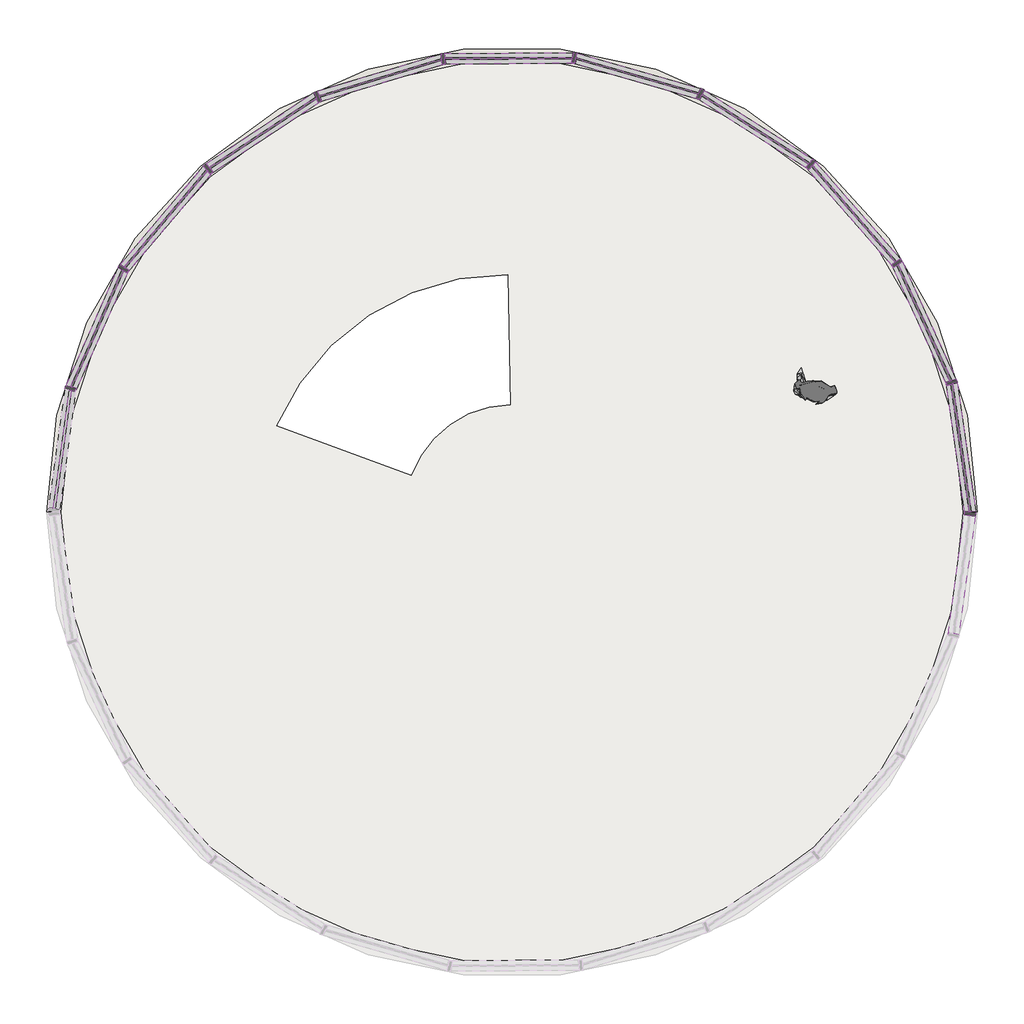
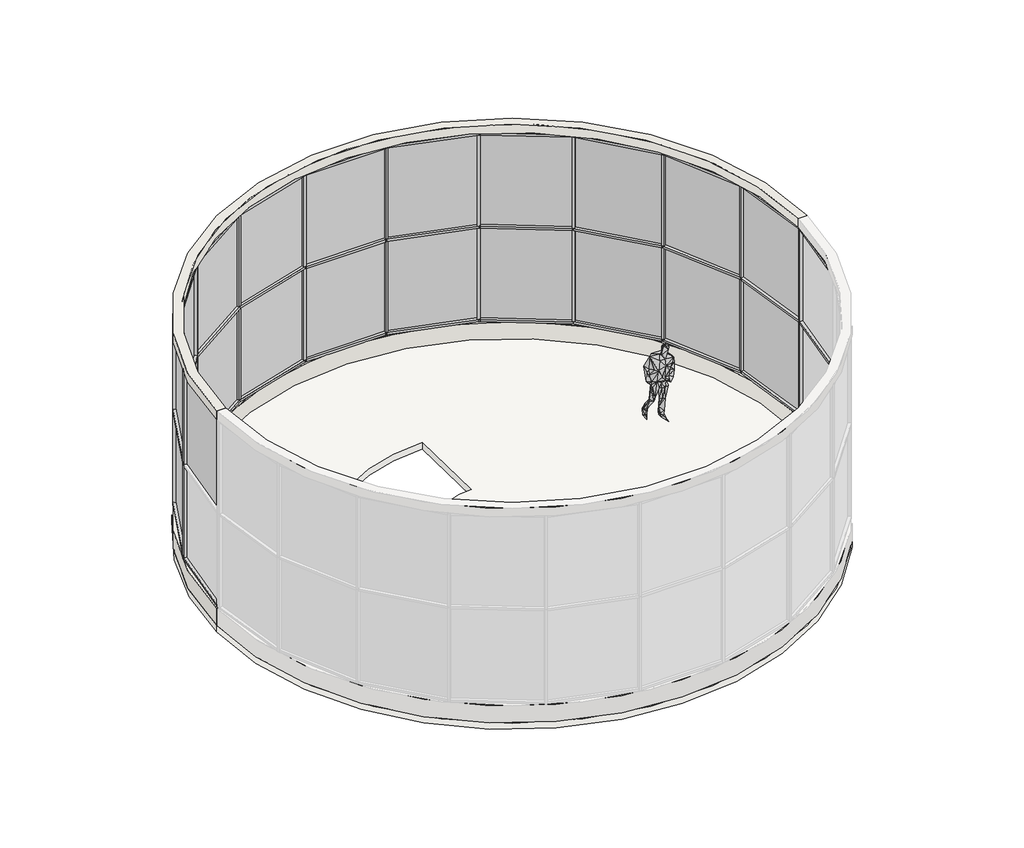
# One storey, part 2 of 2: 55 members, 21 plates, 1 geographic element, 1 slab, 1 wall.
"""IFC4 building model written with IfcOpenShell, lengths in millimetres."""

from ifc_helpers import new_model, si_unit, point, frame, frame_2d, origin, place, context, project, spatial, polyline, circle_curve, trimmed, segment, composite_curve, outline, extrude, transform, mapped, element, save
from components import geographic_element_6033e373, member_50_x_150mm_b0936cf7, member_50_x_150mm_9cef7b28, member_50_x_150mm_9c1dd4a6, member_50_x_150mm_57523fa1, member_50_x_150mm_4a28a883, member_50_x_150mm_b9f85757, member_50_x_150mm_792551fd, member_50_x_150mm_4461103d, member_50_x_150mm_7cecf424, member_50_x_150mm_166c6062, plate_04283251, plate_6d2e8075, plate_2a900eb7

model = new_model("IFC4")

# Units and contexts
model_context = context("Model", 3, world=origin())
ifc_project = project(units=[si_unit("LENGTHUNIT", "METRE", prefix="MILLI")], contexts=[model_context])

# Site, building, storey
site = spatial("IfcSite", under=ifc_project)
building = spatial("IfcBuilding", under=site)
storey = spatial("IfcBuildingStorey", under=building, Name="标高 3", Elevation=12000.0)

# Geographic element
placement = place(None, origin())
geographic_element_shape = geographic_element_6033e373(model_context)
element("IfcGeographicElement", 1, ObjectType="Enscape AssetDefinition - Lars, Walking : Enscape AssetDefinition - Lars, Walking", at=placement, inside=storey, context=model_context, shape_type="MappedRepresentation", body=[
    mapped(geographic_element_shape, transform((3836.1298401, 2197.2359449, 12000.0), x_axis=(1.0, 0.0, 0.0), y_axis=(0.0, 1.0, 0.0), z_axis=(0.0, 0.0, 1.0))),
])

# Members
member_50_x_150mm_shape = member_50_x_150mm_b0936cf7(model_context)
element("IfcMember", 2, ObjectType="矩形竖梃 : 50 x 150mm", at=placement, inside=storey, context=model_context, shape_type="MappedRepresentation", body=[
    mapped(member_50_x_150mm_shape, transform((6029.3412225, 447.6989418, 16800.0), x_axis=(0.0, 0.0, 1.0), y_axis=(0.9907400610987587, -0.13577235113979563, 0.0), z_axis=(0.1357723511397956, 0.9907400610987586, 0.0))),
])
member_50_x_150mm_2_shape = member_50_x_150mm_9cef7b28(model_context)
element("IfcMember", 3, ObjectType="矩形竖梃 : 50 x 150mm", at=placement, inside=storey, context=model_context, shape_type="MappedRepresentation", body=[
    mapped(member_50_x_150mm_2_shape, transform((5774.4970257, 2308.4367326, 12400.0), x_axis=(-0.28300012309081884, 0.9591198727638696, 0.0), y_axis=(0.9591198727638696, 0.28300012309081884, 0.0), z_axis=(0.0, 0.0, -1.0))),
])
element("IfcMember", 4, ObjectType="矩形竖梃 : 50 x 150mm", at=placement, inside=storey, context=model_context, shape_type="MappedRepresentation", body=[
    mapped(member_50_x_150mm_2_shape, transform((5010.9897518, 3971.5532777, 12400.0), x_axis=(-0.5428620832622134, 0.8398218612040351, 0.0), y_axis=(0.8398218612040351, 0.5428620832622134, 0.0), z_axis=(0.0, 0.0, -1.0))),
])
element("IfcMember", 5, ObjectType="矩形竖梃 : 50 x 150mm", at=placement, inside=storey, context=model_context, shape_type="MappedRepresentation", body=[
    mapped(member_50_x_150mm_2_shape, transform((3808.0325667, 5350.6087556, 12400.0), x_axis=(-0.7583395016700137, 0.6518598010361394, 0.0), y_axis=(0.6518598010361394, 0.7583395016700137, 0.0), z_axis=(0.0, 0.0, -1.0))),
])
element("IfcMember", 6, ObjectType="矩形竖梃 : 50 x 150mm", at=placement, inside=storey, context=model_context, shape_type="MappedRepresentation", body=[
    mapped(member_50_x_150mm_2_shape, transform((2263.9795554, 6332.8512401, 12400.0), x_axis=(-0.9118148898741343, 0.41060151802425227, 0.0), y_axis=(0.41060151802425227, 0.9118148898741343, 0.0), z_axis=(0.0, 0.0, -1.0))),
])
element("IfcMember", 7, ObjectType="矩形竖梃 : 50 x 150mm", at=placement, inside=storey, context=model_context, shape_type="MappedRepresentation", body=[
    mapped(member_50_x_150mm_2_shape, transform((505.0728842, 6837.9723363, 12400.0), x_axis=(-0.9907400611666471, 0.1357723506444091, 0.0), y_axis=(0.1357723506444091, 0.9907400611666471, 0.0), z_axis=(0.0, 0.0, -1.0))),
])
element("IfcMember", 8, ObjectType="矩形竖梃 : 50 x 150mm", at=placement, inside=storey, context=model_context, shape_type="MappedRepresentation", body=[
    mapped(member_50_x_150mm_2_shape, transform((-1324.878791, 6824.6732153, 12400.0), x_axis=(-0.988662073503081, -0.15015759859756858, 0.0), y_axis=(-0.15015759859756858, 0.988662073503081, 0.0), z_axis=(0.0, 0.0, -1.0))),
])
element("IfcMember", 9, ObjectType="矩形竖梃 : 50 x 150mm", at=placement, inside=storey, context=model_context, shape_type="MappedRepresentation", body=[
    mapped(member_50_x_150mm_2_shape, transform((-3076.2581564, 6294.0412164, 12400.0), x_axis=(-0.9057508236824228, -0.4238106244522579, 0.0), y_axis=(-0.4238106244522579, 0.9057508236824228, 0.0), z_axis=(0.0, 0.0, -1.0))),
])
element("IfcMember", 10, ObjectType="矩形竖梃 : 50 x 150mm", at=placement, inside=storey, context=model_context, shape_type="MappedRepresentation", body=[
    mapped(member_50_x_150mm_2_shape, transform((-4605.8719906, 5289.4609467, 12400.0), x_axis=(-0.7487851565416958, -0.6628127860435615, 0.0), y_axis=(-0.6628127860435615, 0.7487851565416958, 0.0), z_axis=(0.0, 0.0, -1.0))),
])
element("IfcMember", 11, ObjectType="矩形竖梃 : 50 x 150mm", at=placement, inside=storey, context=model_context, shape_type="MappedRepresentation", body=[
    mapped(member_50_x_150mm_2_shape, transform((-5788.6586781, 3893.0671441, 12400.0), x_axis=(-0.5305986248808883, -0.847623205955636, 0.0), y_axis=(-0.847623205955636, 0.5305986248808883, 0.0), z_axis=(0.0, 0.0, -1.0))),
])
element("IfcMember", 12, ObjectType="矩形竖梃 : 50 x 150mm", at=placement, inside=storey, context=model_context, shape_type="MappedRepresentation", body=[
    mapped(member_50_x_150mm_2_shape, transform((-6527.9132789, 2219.0293204, 12400.0), x_axis=(-0.2690302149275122, -0.963131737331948, 0.0), y_axis=(-0.963131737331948, 0.2690302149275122, 0.0), z_axis=(0.0, 0.0, -1.0))),
])
member_50_x_150mm_3_shape = member_50_x_150mm_9c1dd4a6(model_context)
element("IfcMember", 13, ObjectType="矩形竖梃 : 50 x 150mm", at=placement, inside=storey, context=model_context, shape_type="MappedRepresentation", body=[
    mapped(member_50_x_150mm_3_shape, transform((5021.420179, 3948.8331064, 14600.0), x_axis=(0.0, 0.0, 1.0), y_axis=(0.9088068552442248, 0.41721708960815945, 0.0), z_axis=(-0.41721708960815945, 0.9088068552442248, 0.0))),
])
element("IfcMember", 14, ObjectType="矩形竖梃 : 50 x 150mm", at=placement, inside=storey, context=model_context, shape_type="MappedRepresentation", body=[
    mapped(member_50_x_150mm_3_shape, transform((3824.466408, 5331.7691998, 14600.0), x_axis=(0.0, 0.0, 1.0), y_axis=(0.7535822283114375, 0.6573536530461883, 0.0), z_axis=(-0.6573536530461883, 0.7535822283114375, 0.0))),
])
element("IfcMember", 15, ObjectType="矩形竖梃 : 50 x 150mm", at=placement, inside=storey, context=model_context, shape_type="MappedRepresentation", body=[
    mapped(member_50_x_150mm_3_shape, transform((2285.0731758, 6319.4326269, 14600.0), x_axis=(0.0, 0.0, 1.0), y_axis=(0.5367445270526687, 0.8437448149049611, 0.0), z_axis=(-0.8437448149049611, 0.5367445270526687, 0.0))),
])
element("IfcMember", 16, ObjectType="矩形竖梃 : 50 x 150mm", at=placement, inside=storey, context=model_context, shape_type="MappedRepresentation", body=[
    mapped(member_50_x_150mm_3_shape, transform((529.1016638, 6831.0717749, 14600.0), x_axis=(0.0, 0.0, 1.0), y_axis=(0.27602245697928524, 0.9611511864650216, 0.0), z_axis=(-0.9611511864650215, 0.2760224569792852, 0.0))),
])
element("IfcMember", 17, ObjectType="矩形竖梃 : 50 x 150mm", at=placement, inside=storey, context=model_context, shape_type="MappedRepresentation", body=[
    mapped(member_50_x_150mm_3_shape, transform((-1299.8794511, 6824.8548973, 14600.0), x_axis=(0.0, 0.0, 1.0), y_axis=(-0.007267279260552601, 0.9999735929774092, 0.0), z_axis=(-0.9999735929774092, -0.007267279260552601, 0.0))),
])
element("IfcMember", 18, ObjectType="矩形竖梃 : 50 x 150mm", at=placement, inside=storey, context=model_context, shape_type="MappedRepresentation", body=[
    mapped(member_50_x_150mm_3_shape, transform((-3052.3322088, 6301.2902875, 14600.0), x_axis=(0.0, 0.0, 1.0), y_axis=(-0.2899628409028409, 0.9570379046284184, 0.0), z_axis=(-0.9570379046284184, -0.2899628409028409, 0.0))),
])
element("IfcMember", 19, ObjectType="矩形竖梃 : 50 x 150mm", at=placement, inside=storey, context=model_context, shape_type="MappedRepresentation", body=[
    mapped(member_50_x_150mm_3_shape, transform((-4584.9756268, 5303.1847209, 14600.0), x_axis=(0.0, 0.0, 1.0), y_axis=(-0.5489509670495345, 0.8358545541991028, 0.0), z_axis=(-0.8358545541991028, -0.5489509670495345, 0.0))),
])
element("IfcMember", 20, ObjectType="矩形竖梃 : 50 x 150mm", at=placement, inside=storey, context=model_context, shape_type="MappedRepresentation", body=[
    mapped(member_50_x_150mm_3_shape, transform((-5772.50039, 3912.1435622, 14600.0), x_axis=(0.0, 0.0, 1.0), y_axis=(-0.7630567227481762, 0.6463315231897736, 0.0), z_axis=(-0.6463315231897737, -0.7630567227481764, 0.0))),
])
element("IfcMember", 21, ObjectType="矩形竖梃 : 50 x 150mm", at=placement, inside=storey, context=model_context, shape_type="MappedRepresentation", body=[
    mapped(member_50_x_150mm_3_shape, transform((-6517.8141723, 2241.8986896, 14600.0), x_axis=(0.0, 0.0, 1.0), y_axis=(-0.9147747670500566, 0.4039642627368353, 0.0), z_axis=(-0.4039642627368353, -0.9147747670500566, 0.0))),
])
member_50_x_150mm_4_shape = member_50_x_150mm_57523fa1(model_context)
element("IfcMember", 22, ObjectType="矩形竖梃 : 50 x 150mm", at=placement, inside=storey, context=model_context, shape_type="MappedRepresentation", body=[
    mapped(member_50_x_150mm_4_shape, transform((6029.3412225, 447.6989418, 14600.0), x_axis=(0.0, 0.0, 1.0), y_axis=(0.9907400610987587, -0.13577235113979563, 0.0), z_axis=(0.1357723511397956, 0.9907400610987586, 0.0))),
])
member_50_x_150mm_5_shape = member_50_x_150mm_4a28a883(model_context)
element("IfcMember", 23, ObjectType="矩形竖梃 : 50 x 150mm", at=placement, inside=storey, context=model_context, shape_type="MappedRepresentation", body=[
    mapped(member_50_x_150mm_5_shape, transform((5764.0665985, 2331.156904, 12400.0), x_axis=(0.0, 0.0, -1.0), y_axis=(0.9088068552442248, 0.4172170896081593, 0.0), z_axis=(0.4172170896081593, -0.9088068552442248, 0.0))),
])
element("IfcMember", 24, ObjectType="矩形竖梃 : 50 x 150mm", at=placement, inside=storey, context=model_context, shape_type="MappedRepresentation", body=[
    mapped(member_50_x_150mm_5_shape, transform((4994.5559104, 3990.3928335, 12400.0), x_axis=(0.0, 0.0, -1.0), y_axis=(0.7535822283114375, 0.6573536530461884, 0.0), z_axis=(0.6573536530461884, -0.7535822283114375, 0.0))),
])
element("IfcMember", 25, ObjectType="矩形竖梃 : 50 x 150mm", at=placement, inside=storey, context=model_context, shape_type="MappedRepresentation", body=[
    mapped(member_50_x_150mm_5_shape, transform((3786.9389463, 5364.0273687, 12400.0), x_axis=(0.0, 0.0, -1.0), y_axis=(0.536744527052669, 0.843744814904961, 0.0), z_axis=(0.8437448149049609, -0.5367445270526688, 0.0))),
])
element("IfcMember", 26, ObjectType="矩形竖梃 : 50 x 150mm", at=placement, inside=storey, context=model_context, shape_type="MappedRepresentation", body=[
    mapped(member_50_x_150mm_5_shape, transform((2239.9507757, 6339.7518015, 12400.0), x_axis=(0.0, 0.0, -1.0), y_axis=(0.2760224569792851, 0.9611511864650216, 0.0), z_axis=(0.9611511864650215, -0.27602245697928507, 0.0))),
])
element("IfcMember", 27, ObjectType="矩形竖梃 : 50 x 150mm", at=placement, inside=storey, context=model_context, shape_type="MappedRepresentation", body=[
    mapped(member_50_x_150mm_5_shape, transform((480.0735444, 6837.7906544, 12400.0), x_axis=(0.0, 0.0, -1.0), y_axis=(-0.007267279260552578, 0.9999735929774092, 0.0), z_axis=(0.9999735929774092, 0.007267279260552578, 0.0))),
])
element("IfcMember", 28, ObjectType="矩形竖梃 : 50 x 150mm", at=placement, inside=storey, context=model_context, shape_type="MappedRepresentation", body=[
    mapped(member_50_x_150mm_5_shape, transform((-1348.8047386, 6817.4241443, 12400.0), x_axis=(0.0, 0.0, -1.0), y_axis=(-0.2899628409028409, 0.9570379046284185, 0.0), z_axis=(0.9570379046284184, 0.28996284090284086, 0.0))),
])
element("IfcMember", 29, ObjectType="矩形竖梃 : 50 x 150mm", at=placement, inside=storey, context=model_context, shape_type="MappedRepresentation", body=[
    mapped(member_50_x_150mm_5_shape, transform((-3097.1545203, 6280.3174423, 12400.0), x_axis=(0.0, 0.0, -1.0), y_axis=(-0.5489509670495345, 0.8358545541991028, 0.0), z_axis=(0.8358545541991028, 0.5489509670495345, 0.0))),
])
element("IfcMember", 30, ObjectType="矩形竖梃 : 50 x 150mm", at=placement, inside=storey, context=model_context, shape_type="MappedRepresentation", body=[
    mapped(member_50_x_150mm_5_shape, transform((-4622.0302787, 5270.3845287, 12400.0), x_axis=(0.0, 0.0, -1.0), y_axis=(-0.7630567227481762, 0.6463315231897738, 0.0), z_axis=(0.6463315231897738, 0.7630567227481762, 0.0))),
])
element("IfcMember", 31, ObjectType="矩形竖梃 : 50 x 150mm", at=placement, inside=storey, context=model_context, shape_type="MappedRepresentation", body=[
    mapped(member_50_x_150mm_5_shape, transform((-5798.7577846, 3870.1977749, 12400.0), x_axis=(0.0, 0.0, -1.0), y_axis=(-0.9147747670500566, 0.40396426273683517, 0.0), z_axis=(0.40396426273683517, 0.9147747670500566, 0.0))),
])
member_50_x_150mm_6_shape = member_50_x_150mm_b9f85757(model_context)
element("IfcMember", 32, ObjectType="矩形竖梃 : 50 x 150mm", at=placement, inside=storey, context=model_context, shape_type="MappedRepresentation", body=[
    mapped(member_50_x_150mm_6_shape, transform((-6531.3075877, 2194.2608189, 12400.0), x_axis=(0.0, 0.0, -1.0), y_axis=(-0.9907400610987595, 0.13577235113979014, 0.0), z_axis=(0.13577235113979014, 0.9907400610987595, 0.0))),
])
element("IfcMember", 33, ObjectType="矩形竖梃 : 50 x 150mm", at=placement, inside=storey, context=model_context, shape_type="MappedRepresentation", body=[
    mapped(member_50_x_150mm_5_shape, transform((5021.420179, 3948.8331064, 16800.0), x_axis=(0.0, 0.0, 1.0), y_axis=(0.9088068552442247, 0.4172170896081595, 0.0), z_axis=(-0.4172170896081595, 0.9088068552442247, 0.0))),
])
element("IfcMember", 34, ObjectType="矩形竖梃 : 50 x 150mm", at=placement, inside=storey, context=model_context, shape_type="MappedRepresentation", body=[
    mapped(member_50_x_150mm_5_shape, transform((3824.466408, 5331.7691998, 16800.0), x_axis=(0.0, 0.0, 1.0), y_axis=(0.7535822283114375, 0.6573536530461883, 0.0), z_axis=(-0.6573536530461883, 0.7535822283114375, 0.0))),
])
element("IfcMember", 35, ObjectType="矩形竖梃 : 50 x 150mm", at=placement, inside=storey, context=model_context, shape_type="MappedRepresentation", body=[
    mapped(member_50_x_150mm_5_shape, transform((2285.0731758, 6319.4326269, 16800.0), x_axis=(0.0, 0.0, 1.0), y_axis=(0.5367445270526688, 0.843744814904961, 0.0), z_axis=(-0.843744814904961, 0.5367445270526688, 0.0))),
])
element("IfcMember", 36, ObjectType="矩形竖梃 : 50 x 150mm", at=placement, inside=storey, context=model_context, shape_type="MappedRepresentation", body=[
    mapped(member_50_x_150mm_5_shape, transform((529.1016638, 6831.0717749, 16800.0), x_axis=(0.0, 0.0, 1.0), y_axis=(0.2760224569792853, 0.9611511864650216, 0.0), z_axis=(-0.9611511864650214, 0.27602245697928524, 0.0))),
])
element("IfcMember", 37, ObjectType="矩形竖梃 : 50 x 150mm", at=placement, inside=storey, context=model_context, shape_type="MappedRepresentation", body=[
    mapped(member_50_x_150mm_5_shape, transform((-1299.8794511, 6824.8548973, 16800.0), x_axis=(0.0, 0.0, 1.0), y_axis=(-0.007267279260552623, 0.9999735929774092, 0.0), z_axis=(-0.9999735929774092, -0.007267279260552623, 0.0))),
])
element("IfcMember", 38, ObjectType="矩形竖梃 : 50 x 150mm", at=placement, inside=storey, context=model_context, shape_type="MappedRepresentation", body=[
    mapped(member_50_x_150mm_5_shape, transform((-3052.3322088, 6301.2902875, 16800.0), x_axis=(0.0, 0.0, 1.0), y_axis=(-0.28996284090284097, 0.9570379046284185, 0.0), z_axis=(-0.9570379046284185, -0.28996284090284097, 0.0))),
])
element("IfcMember", 39, ObjectType="矩形竖梃 : 50 x 150mm", at=placement, inside=storey, context=model_context, shape_type="MappedRepresentation", body=[
    mapped(member_50_x_150mm_5_shape, transform((-4584.9756268, 5303.1847209, 16800.0), x_axis=(0.0, 0.0, 1.0), y_axis=(-0.5489509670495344, 0.8358545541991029, 0.0), z_axis=(-0.8358545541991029, -0.5489509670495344, 0.0))),
])
element("IfcMember", 40, ObjectType="矩形竖梃 : 50 x 150mm", at=placement, inside=storey, context=model_context, shape_type="MappedRepresentation", body=[
    mapped(member_50_x_150mm_5_shape, transform((-5772.50039, 3912.1435622, 16800.0), x_axis=(0.0, 0.0, 1.0), y_axis=(-0.7630567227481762, 0.6463315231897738, 0.0), z_axis=(-0.6463315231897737, -0.763056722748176, 0.0))),
])
element("IfcMember", 41, ObjectType="矩形竖梃 : 50 x 150mm", at=placement, inside=storey, context=model_context, shape_type="MappedRepresentation", body=[
    mapped(member_50_x_150mm_5_shape, transform((-6517.8141723, 2241.8986896, 16800.0), x_axis=(0.0, 0.0, 1.0), y_axis=(-0.9147747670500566, 0.4039642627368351, 0.0), z_axis=(-0.4039642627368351, -0.9147747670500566, 0.0))),
])
element("IfcMember", 42, ObjectType="矩形竖梃 : 50 x 150mm", at=placement, inside=storey, context=model_context, shape_type="MappedRepresentation", body=[
    mapped(member_50_x_150mm_2_shape, transform((5774.4970257, 2308.4367326, 14600.0), x_axis=(-0.28300012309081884, 0.9591198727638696, 0.0), y_axis=(0.9591198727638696, 0.28300012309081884, 0.0), z_axis=(0.0, 0.0, -1.0))),
])
element("IfcMember", 43, ObjectType="矩形竖梃 : 50 x 150mm", at=placement, inside=storey, context=model_context, shape_type="MappedRepresentation", body=[
    mapped(member_50_x_150mm_2_shape, transform((5010.9897518, 3971.5532777, 14600.0), x_axis=(-0.5428620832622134, 0.8398218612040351, 0.0), y_axis=(0.8398218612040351, 0.5428620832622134, 0.0), z_axis=(0.0, 0.0, -1.0))),
])
element("IfcMember", 44, ObjectType="矩形竖梃 : 50 x 150mm", at=placement, inside=storey, context=model_context, shape_type="MappedRepresentation", body=[
    mapped(member_50_x_150mm_2_shape, transform((3808.0325667, 5350.6087556, 14600.0), x_axis=(-0.7583395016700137, 0.6518598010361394, 0.0), y_axis=(0.6518598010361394, 0.7583395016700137, 0.0), z_axis=(0.0, 0.0, -1.0))),
])
element("IfcMember", 45, ObjectType="矩形竖梃 : 50 x 150mm", at=placement, inside=storey, context=model_context, shape_type="MappedRepresentation", body=[
    mapped(member_50_x_150mm_2_shape, transform((2263.9795554, 6332.8512401, 14600.0), x_axis=(-0.9118148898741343, 0.41060151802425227, 0.0), y_axis=(0.41060151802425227, 0.9118148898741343, 0.0), z_axis=(0.0, 0.0, -1.0))),
])
element("IfcMember", 46, ObjectType="矩形竖梃 : 50 x 150mm", at=placement, inside=storey, context=model_context, shape_type="MappedRepresentation", body=[
    mapped(member_50_x_150mm_2_shape, transform((505.0728842, 6837.9723363, 14600.0), x_axis=(-0.9907400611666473, 0.1357723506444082, 0.0), y_axis=(0.1357723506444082, 0.9907400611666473, 0.0), z_axis=(0.0, 0.0, -1.0))),
])
element("IfcMember", 47, ObjectType="矩形竖梃 : 50 x 150mm", at=placement, inside=storey, context=model_context, shape_type="MappedRepresentation", body=[
    mapped(member_50_x_150mm_2_shape, transform((-1324.878791, 6824.6732153, 14600.0), x_axis=(-0.988662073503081, -0.15015759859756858, 0.0), y_axis=(-0.15015759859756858, 0.988662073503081, 0.0), z_axis=(0.0, 0.0, -1.0))),
])
element("IfcMember", 48, ObjectType="矩形竖梃 : 50 x 150mm", at=placement, inside=storey, context=model_context, shape_type="MappedRepresentation", body=[
    mapped(member_50_x_150mm_2_shape, transform((-3076.2581564, 6294.0412164, 14600.0), x_axis=(-0.9057508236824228, -0.4238106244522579, 0.0), y_axis=(-0.4238106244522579, 0.9057508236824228, 0.0), z_axis=(0.0, 0.0, -1.0))),
])
element("IfcMember", 49, ObjectType="矩形竖梃 : 50 x 150mm", at=placement, inside=storey, context=model_context, shape_type="MappedRepresentation", body=[
    mapped(member_50_x_150mm_2_shape, transform((-4605.8719906, 5289.4609467, 14600.0), x_axis=(-0.7487851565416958, -0.6628127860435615, 0.0), y_axis=(-0.6628127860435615, 0.7487851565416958, 0.0), z_axis=(0.0, 0.0, -1.0))),
])
element("IfcMember", 50, ObjectType="矩形竖梃 : 50 x 150mm", at=placement, inside=storey, context=model_context, shape_type="MappedRepresentation", body=[
    mapped(member_50_x_150mm_2_shape, transform((-5788.6586781, 3893.0671441, 14600.0), x_axis=(-0.5305986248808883, -0.847623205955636, 0.0), y_axis=(-0.847623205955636, 0.5305986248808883, 0.0), z_axis=(0.0, 0.0, -1.0))),
])
element("IfcMember", 51, ObjectType="矩形竖梃 : 50 x 150mm", at=placement, inside=storey, context=model_context, shape_type="MappedRepresentation", body=[
    mapped(member_50_x_150mm_2_shape, transform((-6527.9132789, 2219.0293204, 14600.0), x_axis=(-0.2690302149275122, -0.963131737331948, 0.0), y_axis=(-0.963131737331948, 0.2690302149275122, 0.0), z_axis=(0.0, 0.0, -1.0))),
])
member_50_x_150mm_7_shape = member_50_x_150mm_792551fd(model_context)
element("IfcMember", 52, ObjectType="矩形竖梃 : 50 x 150mm", at=placement, inside=storey, context=model_context, shape_type="MappedRepresentation", body=[
    mapped(member_50_x_150mm_7_shape, transform((6036.1298401, 497.2359449, 12400.0), x_axis=(0.1357723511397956, 0.9907400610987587, 0.0), y_axis=(0.9907400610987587, -0.1357723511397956, 0.0), z_axis=(0.0, 0.0, -1.0))),
])
element("IfcMember", 53, ObjectType="矩形竖梃 : 50 x 150mm", at=placement, inside=storey, context=model_context, shape_type="MappedRepresentation", body=[
    mapped(member_50_x_150mm_7_shape, transform((6036.1298401, 497.2359449, 14600.0), x_axis=(0.1357723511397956, 0.9907400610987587, 0.0), y_axis=(0.9907400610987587, -0.1357723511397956, 0.0), z_axis=(0.0, 0.0, -1.0))),
])
member_50_x_150mm_8_shape = member_50_x_150mm_4461103d(model_context)
element("IfcMember", 54, ObjectType="矩形竖梃 : 50 x 150mm", at=placement, inside=storey, context=model_context, shape_type="MappedRepresentation", body=[
    mapped(member_50_x_150mm_8_shape, transform((6036.1298401, 497.2359449, 12400.0), x_axis=(0.0, 0.0, -1.0), y_axis=(0.989727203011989, 0.14296875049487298, 0.0), z_axis=(0.14296875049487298, -0.989727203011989, 0.0))),
])
member_50_x_150mm_9_shape = member_50_x_150mm_7cecf424(model_context)
element("IfcMember", 55, ObjectType="矩形竖梃 : 50 x 150mm", at=placement, inside=storey, context=model_context, shape_type="MappedRepresentation", body=[
    mapped(member_50_x_150mm_9_shape, transform((5778.0712445, 2283.6935526, 14600.0), x_axis=(0.0, 0.0, 1.0), y_axis=(0.989727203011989, 0.14296875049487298, 0.0), z_axis=(-0.14296875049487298, 0.989727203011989, 0.0))),
])
member_50_x_150mm_10_shape = member_50_x_150mm_166c6062(model_context)
element("IfcMember", 56, ObjectType="矩形竖梃 : 50 x 150mm", at=placement, inside=storey, context=model_context, shape_type="MappedRepresentation", body=[
    mapped(member_50_x_150mm_10_shape, transform((5778.0712445, 2283.6935526, 16800.0), x_axis=(0.0, 0.0, 1.0), y_axis=(0.989727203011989, 0.14296875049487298, 0.0), z_axis=(-0.14296875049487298, 0.989727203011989, 0.0))),
])

# Plates
plate_shape = plate_04283251(model_context)
element("IfcPlate", 57, ObjectType="系统嵌板 : 玻璃", at=placement, inside=storey, context=model_context, shape_type="MappedRepresentation", body=[
    mapped(plate_shape, transform((5392.7433887, 3139.9950052, 12450.0), x_axis=(-0.4172170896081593, 0.9088068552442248, 0.0), y_axis=(-0.9088068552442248, -0.4172170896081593, 0.0), z_axis=(0.0, 0.0, 1.0))),
])
element("IfcPlate", 58, ObjectType="系统嵌板 : 玻璃", at=placement, inside=storey, context=model_context, shape_type="MappedRepresentation", body=[
    mapped(plate_shape, transform((4409.5111592, 4661.0810166, 12450.0), x_axis=(-0.6573536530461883, 0.7535822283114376, 0.0), y_axis=(-0.7535822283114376, -0.6573536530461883, 0.0), z_axis=(0.0, 0.0, 1.0))),
])
element("IfcPlate", 59, ObjectType="系统嵌板 : 玻璃", at=placement, inside=storey, context=model_context, shape_type="MappedRepresentation", body=[
    mapped(plate_shape, transform((3036.006061, 5841.7299978, 12450.0), x_axis=(-0.843744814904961, 0.5367445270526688, 0.0), y_axis=(-0.5367445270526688, -0.843744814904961, 0.0), z_axis=(0.0, 0.0, 1.0))),
])
element("IfcPlate", 60, ObjectType="系统嵌板 : 玻璃", at=placement, inside=storey, context=model_context, shape_type="MappedRepresentation", body=[
    mapped(plate_shape, transform((1384.5262198, 6585.4117882, 12450.0), x_axis=(-0.9611511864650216, 0.27602245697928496, 0.0), y_axis=(-0.27602245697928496, -0.9611511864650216, 0.0), z_axis=(0.0, 0.0, 1.0))),
])
element("IfcPlate", 61, ObjectType="系统嵌板 : 玻璃", at=placement, inside=storey, context=model_context, shape_type="MappedRepresentation", body=[
    mapped(plate_shape, transform((-409.9029534, 6831.3227758, 12450.0), x_axis=(-0.9999735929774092, -0.007267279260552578, 0.0), y_axis=(0.007267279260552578, -0.9999735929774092, 0.0), z_axis=(0.0, 0.0, 1.0))),
])
element("IfcPlate", 62, ObjectType="系统嵌板 : 玻璃", at=placement, inside=storey, context=model_context, shape_type="MappedRepresentation", body=[
    mapped(plate_shape, transform((-2200.5684737, 6559.3572159, 12450.0), x_axis=(-0.9570379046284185, -0.2899628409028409, 0.0), y_axis=(0.2899628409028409, -0.9570379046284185, 0.0), z_axis=(0.0, 0.0, 1.0))),
])
element("IfcPlate", 63, ObjectType="系统嵌板 : 玻璃", at=placement, inside=storey, context=model_context, shape_type="MappedRepresentation", body=[
    mapped(plate_shape, transform((-3841.0650735, 5791.7510816, 12450.0), x_axis=(-0.8358545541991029, -0.5489509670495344, 0.0), y_axis=(0.5489509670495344, -0.8358545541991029, 0.0), z_axis=(0.0, 0.0, 1.0))),
])
element("IfcPlate", 64, ObjectType="系统嵌板 : 玻璃", at=placement, inside=storey, context=model_context, shape_type="MappedRepresentation", body=[
    mapped(plate_shape, transform((-5197.2653343, 4591.2640454, 12450.0), x_axis=(-0.6463315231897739, -0.7630567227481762, 0.0), y_axis=(0.7630567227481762, -0.6463315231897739, 0.0), z_axis=(0.0, 0.0, 1.0))),
])
element("IfcPlate", 65, ObjectType="系统嵌板 : 玻璃", at=placement, inside=storey, context=model_context, shape_type="MappedRepresentation", body=[
    mapped(plate_shape, transform((-6158.2859785, 3056.0482323, 12450.0), x_axis=(-0.4039642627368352, -0.9147747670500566, 0.0), y_axis=(0.9147747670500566, -0.4039642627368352, 0.0), z_axis=(0.0, 0.0, 1.0))),
])
element("IfcPlate", 66, ObjectType="系统嵌板 : 玻璃", at=placement, inside=storey, context=model_context, shape_type="MappedRepresentation", body=[
    mapped(plate_shape, transform((5392.7433887, 3139.9950052, 14625.0), x_axis=(-0.4172170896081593, 0.9088068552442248, 0.0), y_axis=(-0.9088068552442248, -0.4172170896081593, 0.0), z_axis=(0.0, 0.0, 1.0))),
])
element("IfcPlate", 67, ObjectType="系统嵌板 : 玻璃", at=placement, inside=storey, context=model_context, shape_type="MappedRepresentation", body=[
    mapped(plate_shape, transform((4409.5111592, 4661.0810166, 14625.0), x_axis=(-0.6573536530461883, 0.7535822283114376, 0.0), y_axis=(-0.7535822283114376, -0.6573536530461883, 0.0), z_axis=(0.0, 0.0, 1.0))),
])
element("IfcPlate", 68, ObjectType="系统嵌板 : 玻璃", at=placement, inside=storey, context=model_context, shape_type="MappedRepresentation", body=[
    mapped(plate_shape, transform((3036.006061, 5841.7299978, 14625.0), x_axis=(-0.843744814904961, 0.5367445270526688, 0.0), y_axis=(-0.5367445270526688, -0.843744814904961, 0.0), z_axis=(0.0, 0.0, 1.0))),
])
element("IfcPlate", 69, ObjectType="系统嵌板 : 玻璃", at=placement, inside=storey, context=model_context, shape_type="MappedRepresentation", body=[
    mapped(plate_shape, transform((1384.5262198, 6585.4117882, 14625.0), x_axis=(-0.9611511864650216, 0.27602245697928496, 0.0), y_axis=(-0.27602245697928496, -0.9611511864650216, 0.0), z_axis=(0.0, 0.0, 1.0))),
])
element("IfcPlate", 70, ObjectType="系统嵌板 : 玻璃", at=placement, inside=storey, context=model_context, shape_type="MappedRepresentation", body=[
    mapped(plate_shape, transform((-409.9029534, 6831.3227758, 14625.0), x_axis=(-0.9999735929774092, -0.007267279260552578, 0.0), y_axis=(0.007267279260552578, -0.9999735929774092, 0.0), z_axis=(0.0, 0.0, 1.0))),
])
element("IfcPlate", 71, ObjectType="系统嵌板 : 玻璃", at=placement, inside=storey, context=model_context, shape_type="MappedRepresentation", body=[
    mapped(plate_shape, transform((-2200.5684737, 6559.3572159, 14625.0), x_axis=(-0.9570379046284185, -0.2899628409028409, 0.0), y_axis=(0.2899628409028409, -0.9570379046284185, 0.0), z_axis=(0.0, 0.0, 1.0))),
])
element("IfcPlate", 72, ObjectType="系统嵌板 : 玻璃", at=placement, inside=storey, context=model_context, shape_type="MappedRepresentation", body=[
    mapped(plate_shape, transform((-3841.0650735, 5791.7510816, 14625.0), x_axis=(-0.8358545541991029, -0.5489509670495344, 0.0), y_axis=(0.5489509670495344, -0.8358545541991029, 0.0), z_axis=(0.0, 0.0, 1.0))),
])
element("IfcPlate", 73, ObjectType="系统嵌板 : 玻璃", at=placement, inside=storey, context=model_context, shape_type="MappedRepresentation", body=[
    mapped(plate_shape, transform((-5197.2653343, 4591.2640454, 14625.0), x_axis=(-0.6463315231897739, -0.7630567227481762, 0.0), y_axis=(0.7630567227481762, -0.6463315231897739, 0.0), z_axis=(0.0, 0.0, 1.0))),
])
element("IfcPlate", 74, ObjectType="系统嵌板 : 玻璃", at=placement, inside=storey, context=model_context, shape_type="MappedRepresentation", body=[
    mapped(plate_shape, transform((-6158.2859785, 3056.0482323, 14625.0), x_axis=(-0.4039642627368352, -0.9147747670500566, 0.0), y_axis=(0.9147747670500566, -0.4039642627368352, 0.0), z_axis=(0.0, 0.0, 1.0))),
])
plate_2_shape = plate_6d2e8075(model_context)
element("IfcPlate", 75, ObjectType="系统嵌板 : 玻璃", at=placement, inside=storey, context=model_context, shape_type="MappedRepresentation", body=[
    mapped(plate_2_shape, transform((-6644.194565, 1370.5168834, 14625.0), x_axis=(-0.13577235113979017, -0.9907400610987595, 0.0), y_axis=(0.9907400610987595, -0.13577235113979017, 0.0), z_axis=(0.0, 0.0, 1.0))),
])
plate_3_shape = plate_2a900eb7(model_context)
element("IfcPlate", 76, ObjectType="系统嵌板 : 玻璃", at=placement, inside=storey, context=model_context, shape_type="MappedRepresentation", body=[
    mapped(plate_3_shape, transform((5907.1005423, 1390.4647487, 12450.0), x_axis=(-0.1429687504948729, 0.989727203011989, 0.0), y_axis=(-0.989727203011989, -0.1429687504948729, 0.0), z_axis=(0.0, 0.0, 1.0))),
])
element("IfcPlate", 77, ObjectType="系统嵌板 : 玻璃", at=placement, inside=storey, context=model_context, shape_type="MappedRepresentation", body=[
    mapped(plate_3_shape, transform((5907.1005423, 1390.4647487, 14625.0), x_axis=(-0.1429687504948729, 0.989727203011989, 0.0), y_axis=(-0.989727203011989, -0.1429687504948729, 0.0), z_axis=(0.0, 0.0, 1.0))),
])

# Slab
element("IfcSlab", 78, ObjectType="常规 - 150mm", at=placement, inside=storey, context=model_context, shape_type="SweptSolid", body=[
    extrude(outline(composite_curve([segment(trimmed(circle_curve(frame_2d((-363.8701599, 497.2359449)), 6500.0), [point((-6863.8701599, 497.2359449))], [point((6136.1298401, 497.2359449))], False, "CARTESIAN"), True, "CONTINUOUS"), segment(trimmed(circle_curve(frame_2d((-363.8701599, 497.2359449)), 6500.0), [point((6136.1298401, 497.2359449))], [point((-6863.8701599, 497.2359449))], False, "CARTESIAN"), True, "CONTINUOUS")], self_intersect=False), holes=[composite_curve([segment(polyline([(-3650.0131877, 1701.9201364), (-1772.2171718, 1013.5291698)]), True, "CONTINUOUS"), segment(trimmed(circle_curve(frame_2d((-363.8701599, 497.2359449)), 1500.0), [point((-1772.2171718, 1013.5291698))], [point((-391.6543886, 1996.9786017))], False, "CARTESIAN"), True, "CONTINUOUS"), segment(polyline([(-391.6543886, 1996.9786017), (-425.2782166, 3811.9323259)]), True, "CONTINUOUS"), segment(trimmed(circle_curve(frame_2d((-457.9626449, 342.6941128)), 3469.3921731), [point((-425.2782166, 3811.9323259))], [point((-3650.0131877, 1701.9201364))], True, "CARTESIAN"), True, "CONTINUOUS")], self_intersect=False)]), frame((0.0, 0.0, 11850.0), z_axis=(0.0, 0.0, 1.0), x_axis=(1.0, 0.0, 0.0)), (0.0, 0.0, 1.0), 150.0),
])

# Wall
element("IfcWall", 79, ObjectType="外墙", at=placement, inside=storey, context=model_context, shape_type="SweptSolid", body=[
    extrude(outline(composite_curve([segment(trimmed(circle_curve(frame_2d((-363.8701599, 497.2359449)), 6300.0), [point((5936.1298401, 497.2359449))], [point((-6663.8701599, 497.2359449))], True, "CARTESIAN"), True, "CONTINUOUS"), segment(polyline([(-6663.8701599, 497.2359449), (-6863.8701599, 497.2359449)]), True, "CONTINUOUS"), segment(trimmed(circle_curve(frame_2d((-363.8701599, 497.2359449)), 6500.0), [point((-6863.8701599, 497.2359449))], [point((6136.1298401, 497.2359449))], False, "CARTESIAN"), True, "CONTINUOUS"), segment(polyline([(6136.1298401, 497.2359449), (5936.1298401, 497.2359449)]), True, "CONTINUOUS")], self_intersect=False)), frame((0.0, 0.0, 16800.0), z_axis=(0.0, 0.0, 1.0), x_axis=(1.0, 0.0, 0.0)), (0.0, 0.0, 1.0), 200.0),
    extrude(outline(composite_curve([segment(trimmed(circle_curve(frame_2d((-363.8701599, 497.2359449)), 6300.0), [point((5936.1298401, 497.2359449))], [point((-6663.8701599, 497.2359449))], True, "CARTESIAN"), True, "CONTINUOUS"), segment(polyline([(-6663.8701599, 497.2359449), (-6863.8701599, 497.2359449)]), True, "CONTINUOUS"), segment(trimmed(circle_curve(frame_2d((-363.8701599, 497.2359449)), 6500.0), [point((-6863.8701599, 497.2359449))], [point((6136.1298401, 497.2359449))], False, "CARTESIAN"), True, "CONTINUOUS"), segment(polyline([(6136.1298401, 497.2359449), (5936.1298401, 497.2359449)]), True, "CONTINUOUS")], self_intersect=False)), frame((0.0, 0.0, 12000.0), z_axis=(0.0, 0.0, 1.0), x_axis=(1.0, 0.0, 0.0)), (0.0, 0.0, 1.0), 400.0),
])

save(model, "model.ifc")
